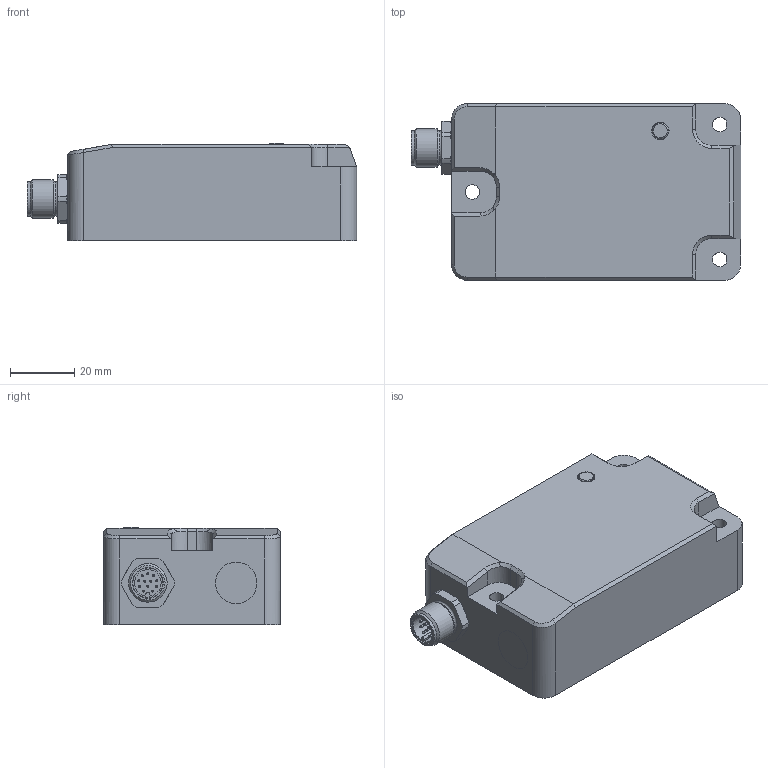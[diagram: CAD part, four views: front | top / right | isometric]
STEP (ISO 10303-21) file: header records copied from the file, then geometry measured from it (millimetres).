
FILE_DESCRIPTION(/* description */ ('Unknown'),/* implementation_level */ '2;1');
FILE_NAME(/* name */ 'GAM900_M_1xM12',/* time_stamp */ '2023-11-29T15:13:42+01:00',/* author */ ('Unknown'),/* organization */ ('Baumer'),/* preprocessor_version */ 'ST-DEVELOPER v16.7',/* originating_system */ 'Solid Edge',/* authorisation */ 'Unknown');
FILE_SCHEMA (('AUTOMOTIVE_DESIGN {1 0 10303 214 3 1 1}'));
Length unit declared in the file: millimetre
Products named in the file (6): GAM900; 11103172; 14200472; Verguss_Alugehäuse; 11112036; 11117590
Assembly tree (5 placements, depth 2):
  GAM900
    11103172
    14200472
    Verguss_Alugehäuse
    11112036
    11117590
Bounding box: 102.5 x 55 x 30.3 mm (x, y, z)
Surface area: 70583.2 mm2
Topology: 8 solids, 8 shells, 671 faces, 1799 edges, 1182 vertices
Faces by surface type: plane 367, cylinder 221, cone 31, sphere 24, bspline 24, torus 4
Full cylindrical faces by diameter (mm): 0.6 x12, 0.63 x12, 0.75 x1, 1.1 x12, 2 x2, 2.3 x6, 4 x1, 4.2 x2, 4.5 x6, 5 x1, 5.4 x2, 8 x2, 9.3 x2, 9.55 x1, 10.6 x1, 10.7 x1, 10.917 x3, 12 x2
Entity records: 22175 total; most frequent: CARTESIAN_POINT 4169, DIRECTION 3303, ORIENTED_EDGE 3190, EDGE_CURVE 1595, AXIS2_PLACEMENT_3D 1146, VERTEX_POINT 1104, LINE 1011, VECTOR 1011
